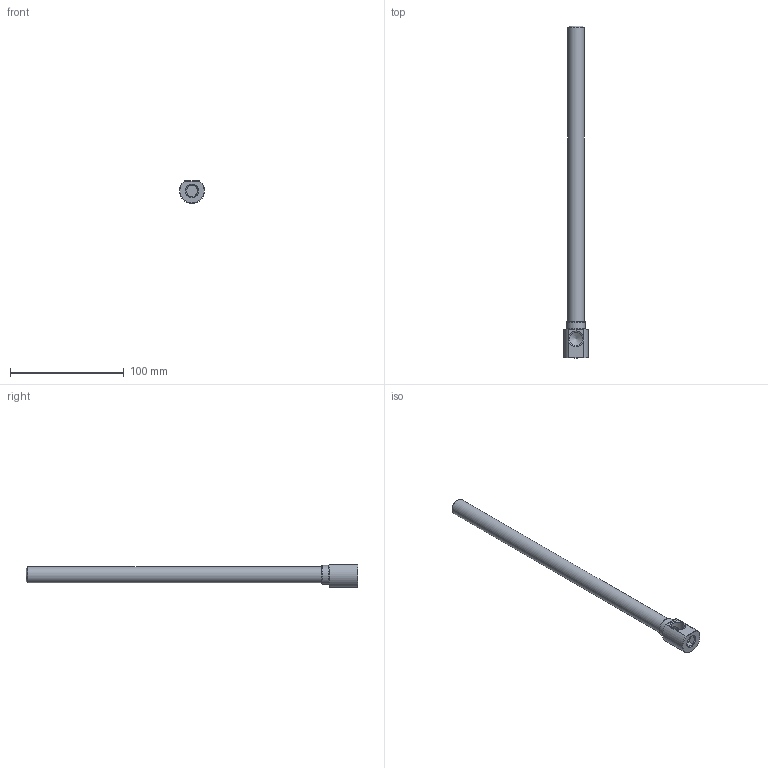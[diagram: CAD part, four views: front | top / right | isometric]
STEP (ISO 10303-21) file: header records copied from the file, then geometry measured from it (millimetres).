
FILE_DESCRIPTION(/* description */ (''),/* implementation_level */ '2;1');
FILE_NAME(/* name */ 'C:/Users/drich/Desktop/EKL14 X 11.5 v2.step',/* time_stamp */ '2019-11-18T14:33:43-06:00',/* author */ (''),/* organization */ (''),/* preprocessor_version */ 'ST-DEVELOPER v18',/* originating_system */ 'Autodesk Translation Framework v8.12.0.6',/* authorisation */ '');
FILE_SCHEMA (('AUTOMOTIVE_DESIGN { 1 0 10303 214 3 1 1 }'));
Length unit declared in the file: inch
Products named in the file (2): EKL14 X 11.5; EKL14 X 11-1/2
Assembly tree (1 placements, depth 2):
  EKL14 X 11.5
    EKL14 X 11-1/2
Bounding box: 21.77 x 292.1 x 19.77 mm (x, y, z)
Volume: 32746.8 mm3; surface area: 22372.2 mm2
Topology: 1 solids, 1 shells, 32 faces, 78 edges, 51 vertices
Faces by surface type: plane 16, cone 10, cylinder 6
Full cylindrical faces by diameter (mm): 8.712 x1, 11.176 x1, 11.668 x1, 14.143 x1, 16.51 x1
Entity records: 1047 total; most frequent: CARTESIAN_POINT 242, DIRECTION 159, ORIENTED_EDGE 154, EDGE_CURVE 77, AXIS2_PLACEMENT_3D 63, VERTEX_POINT 51, EDGE_LOOP 38, LINE 33
